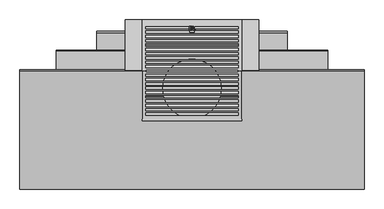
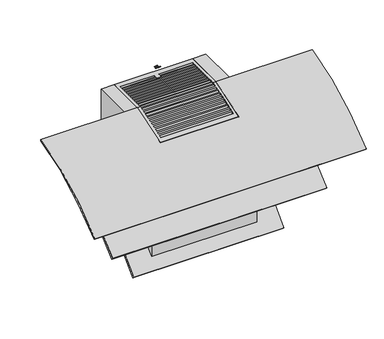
"""IFC4 building model written with IfcOpenShell, lengths in millimetres: proxy geometry, 10837590_RU_DA7198W_GRGR : 28719860_RU_10837590_DA7198W_GRGR."""

from ifc_helpers import new_model, si_unit, point, frame, frame_2d, origin, place, context, project, spatial, polyline, circle_curve, trimmed, segment, composite_curve, outline, extrude, source, transform, mapped, element, save
from ifc_brep_helpers import plane_surface, cylinder_surface, revolved_surface, advanced_brep


def specialty_equipment_96c89e36(model_context):
    return source(origin(), model_context, "Body", "SolidModel", [
        advanced_brep(
        [(-127.0, -197.4958505, 266.0), (-127.0, -215.0046577, 266.0), (127.0, -215.0046577, 266.0), (127.0, -197.4958505, 266.0), (-127.0, -78.0017041, 314.0044394), (-127.0, -81.2372253, 322.4332601), (127.0, -81.2372253, 322.4332601), (127.0, -78.0017041, 314.0044394), (346.5, -81.2372253, 322.4332601), (346.5, -372.0, 145.0), (346.5, -367.0, 140.0), (346.5, -78.0017041, 314.0044394), (-346.5, -81.2372253, 322.4332601), (-346.5, -78.0017041, 314.0044394), (-346.5, -367.0, 140.0), (-346.5, -372.0, 145.0)],
        [
            (0, 1),
            (1, 2),
            (2, 3),
            (3, 0),
            (0, 4, circle_curve(frame((-127.0, 108.2324676, -322.3019595), z_axis=(-1.0, 0.0, 0.0), x_axis=(0.0, 1.0, 0.0)), 663.0)),
            (4, 5),
            (5, 1, circle_curve(frame((-127.0, 110.3847812, -318.5363231), z_axis=(1.0, 0.0, 0.0), x_axis=(0.0, 1.0, 0.0)), 669.0)),
            (2, 6, circle_curve(frame((127.0, 110.3847812, -318.5363231), z_axis=(-1.0, 0.0, 0.0), x_axis=(0.0, 1.0, 0.0)), 669.0)),
            (6, 7),
            (7, 3, circle_curve(frame((127.0, 108.2324676, -322.3019595), z_axis=(1.0, 0.0, 0.0), x_axis=(0.0, 1.0, 0.0)), 663.0)),
            (8, 9, circle_curve(frame((346.5, 110.3847812, -318.5363231), z_axis=(1.0, 0.0, 0.0), x_axis=(0.0, 1.0, 0.0)), 669.0)),
            (9, 10),
            (10, 11, circle_curve(frame((346.5, 108.2324676, -322.3019595), z_axis=(-1.0, 0.0, 0.0), x_axis=(0.0, 1.0, 0.0)), 663.0)),
            (11, 8),
            (12, 13),
            (13, 14, circle_curve(frame((-346.5, 108.2324676, -322.3019595), z_axis=(1.0, 0.0, 0.0), x_axis=(0.0, 1.0, 0.0)), 663.0)),
            (14, 15),
            (15, 12, circle_curve(frame((-346.5, 110.3847812, -318.5363231), z_axis=(-1.0, 0.0, 0.0), x_axis=(0.0, 1.0, 0.0)), 669.0)),
            (8, 6),
            (5, 12),
            (15, 9),
            (14, 10),
            (13, 4),
            (7, 11),
        ],
        [
            plane_surface(frame((-127.0, -64.0, 266.0), z_axis=(0.0, 0.0, 1.0), x_axis=(1.0, 0.0, 0.0))),
            plane_surface(frame((-127.0, -64.0, 516.0), z_axis=(1.0, 0.0, 0.0), x_axis=(0.0, 0.0, -1.0))),
            plane_surface(frame((127.0, -254.0, 516.0), z_axis=(-1.0, 0.0, 0.0), x_axis=(0.0, 0.0, -1.0))),
            plane_surface(frame((346.5, 779.3847812, -318.5363231), z_axis=(1.0, 0.0, 0.0), x_axis=(0.0, 0.0, 1.0))),
            plane_surface(frame((-346.5, 779.3847812, -318.5363231), z_axis=(-1.0, 0.0, 0.0), x_axis=(0.0, 0.0, -1.0))),
            cylinder_surface(frame((-346.5, 110.3847812, -318.5363231), z_axis=(1.0, 0.0, 0.0), x_axis=(0.0, 1.0, 0.0)), 669.0),
            plane_surface(frame((346.5, -372.0, 145.0), z_axis=(0.0, -0.7071067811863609, -0.7071067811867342), x_axis=(-1.0, 0.0, 0.0))),
            revolved_surface(polyline([(-346.5, 771.2324676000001, -322.3019595), (346.5, 771.2324676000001, -322.3019595)]), (-346.5, 108.2324676, -322.3019595), (-1.0, 0.0, 0.0)),
            plane_surface(frame((346.5, -78.0017041, 314.0044394), z_axis=(0.0, 0.9335804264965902, 0.3583679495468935), x_axis=(-1.0, 0.0, 0.0))),
        ],
        [
            (0, [[1, 2, 3, 4]]),
            (1, [[-1, 5, 6, 7]]),
            (2, [[-3, 8, 9, 10]]),
            (3, [[11, 12, 13, 14]]),
            (4, [[15, 16, 17, 18]]),
            (5, [[-11, 19, -8, -2, -7, 20, -18, 21]]),
            (6, [[-12, -21, -17, 22]]),
            (7, [[-13, -22, -16, 23, -5, -4, -10, 24]]),
            (8, [[-14, -24, -9, -19]]),
            (8, [[-15, -20, -6, -23]]),
        ],
    ),
        extrude(outline(composite_curve([segment(polyline([(-33.2266316, 205.4056627), (-30.0, 197.0)]), True, "CONTINUOUS"), segment(trimmed(circle_curve(frame_2d((201.9393039, -424.1063993)), 663.0), [point((-30.0, 197.0))], [point((-305.6073214, 2.4676543))], True, "CARTESIAN"), True, "CONTINUOUS"), segment(polyline([(-305.6073214, 2.4676543), (-311.0, 7.0)]), True, "CONTINUOUS"), segment(trimmed(circle_curve(frame_2d((203.8626365, -420.1738119)), 669.0), [point((-311.0, 7.0))], [point((-33.2266316, 205.4056627))], False, "CARTESIAN"), True, "CONTINUOUS")], self_intersect=False)), frame((-243.5, 0.0, 0.0), z_axis=(1.0, 0.0, 0.0), x_axis=(0.0, 1.0, 0.0)), (0.0, 0.0, 1.0), 487.0),
        advanced_brep(
        [(440.0, -130.0, 440.0), (440.0, -433.0, 283.0), (440.0, -428.7072297, 278.2656206), (440.0, -128.6147909, 434.0), (-440.0, -130.0, 440.0), (-440.0, -128.6147909, 434.0), (-440.0, -428.7072297, 278.2656206), (-440.0, -433.0, 283.0), (127.0, -128.6147909, 434.0), (127.0, -130.0, 440.0), (-127.0, -130.0, 440.0), (-127.0, -128.6147909, 434.0), (-127.0, -258.0, 390.5496169), (127.0, -258.0, 390.5496169), (127.0, -258.0, 397.4182308), (-127.0, -258.0, 397.4182308)],
        [
            (0, 1, circle_curve(frame((440.0, 16.1013922, -212.8517314), z_axis=(1.0, 0.0, 0.0), x_axis=(0.0, 0.0, -1.0)), 669.0)),
            (1, 2),
            (2, 3, circle_curve(frame((440.0, 16.6376719, -212.8931303), z_axis=(-1.0, 0.0, 0.0), x_axis=(0.0, 0.0, -1.0)), 663.0)),
            (3, 0),
            (4, 5),
            (5, 6, circle_curve(frame((-440.0, 16.6376719, -212.8931303), z_axis=(1.0, 0.0, 0.0), x_axis=(0.0, 0.0, -1.0)), 663.0)),
            (6, 7),
            (7, 4, circle_curve(frame((-440.0, 16.1013922, -212.8517314), z_axis=(-1.0, 0.0, 0.0), x_axis=(0.0, 0.0, -1.0)), 669.0)),
            (3, 8),
            (8, 9),
            (9, 0),
            (4, 10),
            (10, 11),
            (11, 5),
            (2, 6),
            (11, 12, circle_curve(frame((-127.0, 16.6376719, -212.8931303), z_axis=(1.0, 0.0, 0.0), x_axis=(0.0, 0.0, -1.0)), 663.0)),
            (12, 13),
            (13, 8, circle_curve(frame((127.0, 16.6376719, -212.8931303), z_axis=(-1.0, 0.0, 0.0), x_axis=(0.0, 0.0, -1.0)), 663.0)),
            (1, 7),
            (9, 14, circle_curve(frame((127.0, 16.1013922, -212.8517314), z_axis=(1.0, 0.0, 0.0), x_axis=(0.0, 0.0, -1.0)), 669.0)),
            (14, 15),
            (15, 10, circle_curve(frame((-127.0, 16.1013922, -212.8517314), z_axis=(-1.0, 0.0, 0.0), x_axis=(0.0, 0.0, -1.0)), 669.0)),
            (15, 12),
            (14, 13),
        ],
        [
            plane_surface(frame((440.0, -128.6147909, 434.0), z_axis=(1.0, 0.0, 0.0), x_axis=(0.0, -0.22495105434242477, 0.9743700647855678))),
            plane_surface(frame((-440.0, -128.6147909, 434.0), z_axis=(-1.0, 0.0, 0.0), x_axis=(0.0, 0.22495105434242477, -0.9743700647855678))),
            plane_surface(frame((-440.0, -130.0, 440.0), z_axis=(0.0, 0.9743700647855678, 0.22495105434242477), x_axis=(1.0, 0.0, 0.0))),
            revolved_surface(polyline([(440.0, 16.6376719, -875.8931302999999), (-440.0, 16.6376719, -875.8931302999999)]), (440.0, 16.6376719, -212.8931303), (1.0, 0.0, 0.0)),
            plane_surface(frame((-440.0, -428.7072297, 278.2656206), z_axis=(0.0, -0.7408125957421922, -0.6717117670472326), x_axis=(1.0, 0.0, 0.0))),
            cylinder_surface(frame((440.0, 16.1013922, -212.8517314), z_axis=(-1.0, 0.0, 0.0), x_axis=(0.0, 0.0, -1.0)), 669.0),
            plane_surface(frame((-127.0, -118.0, 440.0), z_axis=(1.0, 0.0, 0.0), x_axis=(0.0, 0.0, -1.0))),
            plane_surface(frame((-127.0, -258.0, 440.0), z_axis=(0.0, 1.0, 0.0), x_axis=(0.0, 0.0, -1.0))),
            plane_surface(frame((127.0, -258.0, 440.0), z_axis=(-1.0, 0.0, 0.0), x_axis=(0.0, 0.0, -1.0))),
        ],
        [
            (0, [[1, 2, 3, 4]]),
            (1, [[5, 6, 7, 8]]),
            (2, [[-4, 9, 10, 11]]),
            (2, [[-5, 12, 13, 14]]),
            (3, [[-3, 15, -6, -14, 16, 17, 18, -9]]),
            (4, [[-2, 19, -7, -15]]),
            (5, [[-1, -11, 20, 21, 22, -12, -8, -19]]),
            (6, [[23, -16, -13, -22]]),
            (7, [[-23, -21, 24, -17]]),
            (8, [[-24, -20, -10, -18]]),
        ],
    ),
        extrude(outline(composite_curve([segment(trimmed(circle_curve(frame_2d((0.0, -176.0)), 75.0), [point((-75.0, -176.0))], [point((75.0, -176.0))], False, "CARTESIAN"), True, "CONTINUOUS"), segment(trimmed(circle_curve(frame_2d((0.0, -176.0)), 75.0), [point((75.0, -176.0))], [point((-75.0, -176.0))], False, "CARTESIAN"), True, "CONTINUOUS")], self_intersect=False)), frame((0.0, 0.0, 266.0), z_axis=(0.0, 0.0, 1.0), x_axis=(1.0, 0.0, 0.0)), (0.0, 0.0, 1.0), 30.0),
        extrude(outline(polyline([(158.0, -211.0), (158.0, -273.0), (-158.0, -273.0), (-158.0, -211.0), (158.0, -211.0)])), frame((0.0, 0.0, 2.0), z_axis=(0.0, 0.0, 1.0), x_axis=(1.0, 0.0, 0.0)), (0.0, 0.0, 1.0), 11.0),
        advanced_brep(
        [(127.0, -258.0, 397.0), (127.0, -253.4329355, 386.9929064), (127.0, -127.5254792, 429.281673), (127.0, 0.0, 429.281673), (127.0, 0.0, 440.0), (127.0, -130.0, 440.0), (-127.0, -258.0, 397.0), (-127.0, -130.0, 440.0), (-127.0, 0.0, 440.0), (-127.0, 0.0, 429.281673), (-127.0, -127.5254792, 429.281673), (-127.0, -253.4329355, 386.9929064), (-117.5, -128.0, 429.1754123), (-117.5, -134.0, 427.7990304), (117.5, -134.0, 427.7990304), (117.5, -128.0, 429.1754123), (-117.5, -139.0, 426.6054285), (-117.5, -145.0, 425.1167994), (117.5, -145.0, 425.1167994), (117.5, -139.0, 426.6054285), (-117.5, -161.0, 420.8434866), (-117.5, -167.0, 419.1257431), (117.5, -167.0, 419.1257431), (117.5, -161.0, 420.8434866), (117.5, -156.0, 422.226683), (117.5, -150.0, 423.8290514), (-117.5, -150.0, 423.8290514), (-117.5, -156.0, 422.226683), (-117.5, -183.0, 414.2322629), (-117.5, -189.0, 412.2782402), (117.5, -189.0, 412.2782402), (117.5, -183.0, 414.2322629), (117.5, -178.0, 415.8107651), (117.5, -172.0, 417.6456724), (-117.5, -172.0, 417.6456724), (-117.5, -178.0, 415.8107651), (-117.5, -205.0, 406.7437343), (-117.5, -211.0, 404.5449139), (117.5, -211.0, 404.5449139), (117.5, -205.0, 406.7437343), (117.5, -200.0, 408.5243441), (117.5, -194.0, 410.5996086), (-117.5, -194.0, 410.5996086), (-117.5, -200.0, 408.5243441), (-117.5, -216.0, 402.6603148), (-117.5, -222.0, 400.3354219), (117.5, -222.0, 400.3354219), (117.5, -216.0, 402.6603148), (-117.5, -238.0, 393.7916179), (-117.5, -244.0, 391.2061342), (117.5, -244.0, 391.2061342), (117.5, -238.0, 393.7916179), (117.5, -233.0, 395.8909456), (117.5, -227.0, 398.3446469), (-117.5, -227.0, 398.3446469), (-117.5, -233.0, 395.8909456), (-7.5, -18.0, 429.281673), (-117.5, -18.0, 429.281673), (-117.5, -24.0, 429.281673), (-7.5, -24.0, 429.281673), (7.5, -24.0, 429.281673), (117.5, -24.0, 429.281673), (117.5, -18.0, 429.281673), (7.5, -18.0, 429.281673), (-117.5, -29.0, 429.281673), (-117.5, -35.0, 429.281673), (-15.0, -35.0, 429.281673), (15.0, -35.0, 429.281673), (117.5, -35.0, 429.281673), (117.5, -29.0, 429.281673), (7.5, -29.0, 429.281673), (7.5, -33.0, 429.281673), (-7.5, -33.0, 429.281673), (-7.5, -29.0, 429.281673), (-117.5, -40.0, 429.281673), (-117.5, -46.0, 429.281673), (117.5, -46.0, 429.281673), (117.5, -40.0, 429.281673), (-117.5, -51.0, 429.281673), (-117.5, -57.0, 429.281673), (117.5, -57.0, 429.281673), (117.5, -51.0, 429.281673), (-117.5, -62.0, 429.281673), (-117.5, -68.0, 429.281673), (117.5, -68.0, 429.281673), (117.5, -62.0, 429.281673), (-117.5, -73.0, 429.281673), (-117.5, -79.0, 429.281673), (117.5, -79.0, 429.281673), (117.5, -73.0, 429.281673), (-117.5, -84.0, 429.281673), (-117.5, -90.0, 429.281673), (117.5, -90.0, 429.281673), (117.5, -84.0, 429.281673), (-117.5, -95.0, 429.281673), (-117.5, -101.0, 429.281673), (117.5, -101.0, 429.281673), (117.5, -95.0, 429.281673), (-117.5, -106.0, 429.281673), (-117.5, -112.0, 429.281673), (117.5, -112.0, 429.281673), (117.5, -106.0, 429.281673), (-117.5, -117.0, 429.281673), (-117.5, -123.0, 429.281673), (117.5, -123.0, 429.281673), (117.5, -117.0, 429.281673), (-117.5, -130.0, 440.0), (-117.5, -128.0, 440.0), (117.5, -128.0, 440.0), (117.5, -130.0, 440.0), (-117.5, -18.0, 440.0), (-7.5, -18.0, 440.0), (-7.5, -24.0, 440.0), (-117.5, -24.0, 440.0), (117.5, -24.0, 440.0), (7.5, -24.0, 440.0), (7.5, -18.0, 440.0), (117.5, -18.0, 440.0), (-117.5, -35.0, 440.0), (-117.5, -29.0, 440.0), (-7.5, -29.0, 440.0), (-7.5, -33.0, 440.0), (7.5, -33.0, 440.0), (7.5, -29.0, 440.0), (117.5, -29.0, 440.0), (117.5, -35.0, 440.0), (15.0, -35.0, 440.0), (-15.0, -35.0, 440.0), (-117.5, -46.0, 440.0), (-117.5, -40.0, 440.0), (117.5, -40.0, 440.0), (117.5, -46.0, 440.0), (-117.5, -57.0, 440.0), (-117.5, -51.0, 440.0), (117.5, -51.0, 440.0), (117.5, -57.0, 440.0), (-117.5, -68.0, 440.0), (-117.5, -62.0, 440.0), (117.5, -62.0, 440.0), (117.5, -68.0, 440.0), (-117.5, -79.0, 440.0), (-117.5, -73.0, 440.0), (117.5, -73.0, 440.0), (117.5, -79.0, 440.0), (-117.5, -90.0, 440.0), (-117.5, -84.0, 440.0), (117.5, -84.0, 440.0), (117.5, -90.0, 440.0), (-117.5, -101.0, 440.0), (-117.5, -95.0, 440.0), (117.5, -95.0, 440.0), (117.5, -101.0, 440.0), (-117.5, -112.0, 440.0), (-117.5, -106.0, 440.0), (117.5, -106.0, 440.0), (117.5, -112.0, 440.0), (-117.5, -123.0, 440.0), (-117.5, -117.0, 440.0), (117.5, -117.0, 440.0), (117.5, -123.0, 440.0), (117.5, -134.0, 439.0921103), (-117.5, -134.0, 439.0921103), (-117.5, -145.0, 436.4579016), (-117.5, -139.0, 437.9198286), (117.5, -139.0, 437.9198286), (117.5, -145.0, 436.4579016), (-117.5, -167.0, 430.5755837), (-117.5, -161.0, 432.2619393), (117.5, -161.0, 432.2619393), (117.5, -167.0, 430.5755837), (117.5, -150.0, 435.1933534), (117.5, -156.0, 433.6199845), (-117.5, -156.0, 433.6199845), (-117.5, -150.0, 435.1933534), (-117.5, -189.0, 423.8549218), (-117.5, -183.0, 425.7724658), (117.5, -183.0, 425.7724658), (117.5, -189.0, 423.8549218), (117.5, -172.0, 429.1226956), (117.5, -178.0, 427.3216657), (-117.5, -178.0, 427.3216657), (-117.5, -172.0, 429.1226956), (-117.5, -211.0, 416.268234), (-117.5, -205.0, 418.4249876), (117.5, -205.0, 418.4249876), (117.5, -211.0, 416.268234), (117.5, -194.0, 422.2078105), (117.5, -200.0, 420.1717501), (-117.5, -200.0, 420.1717501), (-117.5, -194.0, 422.2078105), (-117.5, -222.0, 412.1401189), (-117.5, -216.0, 414.4199298), (117.5, -216.0, 414.4199298), (117.5, -222.0, 412.1401189), (-117.5, -244.0, 403.1912183), (-117.5, -238.0, 405.7250633), (117.5, -238.0, 405.7250633), (117.5, -244.0, 403.1912183), (117.5, -227.0, 410.1882201), (117.5, -233.0, 407.7827852), (-117.5, -233.0, 407.7827852), (-117.5, -227.0, 410.1882201)],
        [
            (0, 1),
            (1, 2, circle_curve(frame((127.0, 11.8719926, -194.3282571), z_axis=(-1.0, 0.0, 0.0), x_axis=(0.0, 0.0, 1.0)), 639.0)),
            (2, 3),
            (3, 4),
            (4, 5),
            (5, 0, circle_curve(frame((127.0, 11.8719926, -194.3282571), z_axis=(1.0, 0.0, 0.0), x_axis=(0.0, 0.0, 1.0)), 650.0)),
            (6, 7, circle_curve(frame((-127.0, 11.8719926, -194.3282571), z_axis=(-1.0, 0.0, 0.0), x_axis=(0.0, 0.0, 1.0)), 650.0)),
            (7, 8),
            (8, 9),
            (9, 10),
            (10, 11, circle_curve(frame((-127.0, 11.8719926, -194.3282571), z_axis=(1.0, 0.0, 0.0), x_axis=(0.0, 0.0, 1.0)), 639.0)),
            (11, 6),
            (0, 6),
            (11, 1),
            (10, 2),
            (12, 13, circle_curve(frame((-117.5, 11.8719926, -194.3282571), z_axis=(1.0, 0.0, 0.0), x_axis=(0.0, 0.0, 1.0)), 639.0)),
            (13, 14),
            (14, 15, circle_curve(frame((117.5, 11.8719926, -194.3282571), z_axis=(-1.0, 0.0, 0.0), x_axis=(0.0, 0.0, 1.0)), 639.0)),
            (15, 12),
            (16, 17, circle_curve(frame((-117.5, 11.8719926, -194.3282571), z_axis=(1.0, 0.0, 0.0), x_axis=(0.0, 0.0, 1.0)), 639.0)),
            (17, 18),
            (18, 19, circle_curve(frame((117.5, 11.8719926, -194.3282571), z_axis=(-1.0, 0.0, 0.0), x_axis=(0.0, 0.0, 1.0)), 639.0)),
            (19, 16),
            (20, 21, circle_curve(frame((-117.5, 11.8719926, -194.3282571), z_axis=(1.0, 0.0, 0.0), x_axis=(0.0, 0.0, 1.0)), 639.0)),
            (21, 22),
            (22, 23, circle_curve(frame((117.5, 11.8719926, -194.3282571), z_axis=(-1.0, 0.0, 0.0), x_axis=(0.0, 0.0, 1.0)), 639.0)),
            (23, 20),
            (24, 25, circle_curve(frame((117.5, 11.8719926, -194.3282571), z_axis=(-1.0, 0.0, 0.0), x_axis=(0.0, 0.0, 1.0)), 639.0)),
            (25, 26),
            (26, 27, circle_curve(frame((-117.5, 11.8719926, -194.3282571), z_axis=(1.0, 0.0, 0.0), x_axis=(0.0, 0.0, 1.0)), 639.0)),
            (27, 24),
            (28, 29, circle_curve(frame((-117.5, 11.8719926, -194.3282571), z_axis=(1.0, 0.0, 0.0), x_axis=(0.0, 0.0, 1.0)), 639.0)),
            (29, 30),
            (30, 31, circle_curve(frame((117.5, 11.8719926, -194.3282571), z_axis=(-1.0, 0.0, 0.0), x_axis=(0.0, 0.0, 1.0)), 639.0)),
            (31, 28),
            (32, 33, circle_curve(frame((117.5, 11.8719926, -194.3282571), z_axis=(-1.0, 0.0, 0.0), x_axis=(0.0, 0.0, 1.0)), 639.0)),
            (33, 34),
            (34, 35, circle_curve(frame((-117.5, 11.8719926, -194.3282571), z_axis=(1.0, 0.0, 0.0), x_axis=(0.0, 0.0, 1.0)), 639.0)),
            (35, 32),
            (36, 37, circle_curve(frame((-117.5, 11.8719926, -194.3282571), z_axis=(1.0, 0.0, 0.0), x_axis=(0.0, 0.0, 1.0)), 639.0)),
            (37, 38),
            (38, 39, circle_curve(frame((117.5, 11.8719926, -194.3282571), z_axis=(-1.0, 0.0, 0.0), x_axis=(0.0, 0.0, 1.0)), 639.0)),
            (39, 36),
            (40, 41, circle_curve(frame((117.5, 11.8719926, -194.3282571), z_axis=(-1.0, 0.0, 0.0), x_axis=(0.0, 0.0, 1.0)), 639.0)),
            (41, 42),
            (42, 43, circle_curve(frame((-117.5, 11.8719926, -194.3282571), z_axis=(1.0, 0.0, 0.0), x_axis=(0.0, 0.0, 1.0)), 639.0)),
            (43, 40),
            (44, 45, circle_curve(frame((-117.5, 11.8719926, -194.3282571), z_axis=(1.0, 0.0, 0.0), x_axis=(0.0, 0.0, 1.0)), 639.0)),
            (45, 46),
            (46, 47, circle_curve(frame((117.5, 11.8719926, -194.3282571), z_axis=(-1.0, 0.0, 0.0), x_axis=(0.0, 0.0, 1.0)), 639.0)),
            (47, 44),
            (48, 49, circle_curve(frame((-117.5, 11.8719926, -194.3282571), z_axis=(1.0, 0.0, 0.0), x_axis=(0.0, 0.0, 1.0)), 639.0)),
            (49, 50),
            (50, 51, circle_curve(frame((117.5, 11.8719926, -194.3282571), z_axis=(-1.0, 0.0, 0.0), x_axis=(0.0, 0.0, 1.0)), 639.0)),
            (51, 48),
            (52, 53, circle_curve(frame((117.5, 11.8719926, -194.3282571), z_axis=(-1.0, 0.0, 0.0), x_axis=(0.0, 0.0, 1.0)), 639.0)),
            (53, 54),
            (54, 55, circle_curve(frame((-117.5, 11.8719926, -194.3282571), z_axis=(1.0, 0.0, 0.0), x_axis=(0.0, 0.0, 1.0)), 639.0)),
            (55, 52),
            (9, 3),
            (56, 57),
            (57, 58),
            (58, 59),
            (59, 56),
            (60, 61),
            (61, 62),
            (62, 63),
            (63, 60),
            (64, 65),
            (65, 66),
            (66, 67),
            (67, 68),
            (68, 69),
            (69, 70),
            (70, 71),
            (71, 72),
            (72, 73),
            (73, 64),
            (74, 75),
            (75, 76),
            (76, 77),
            (77, 74),
            (78, 79),
            (79, 80),
            (80, 81),
            (81, 78),
            (82, 83),
            (83, 84),
            (84, 85),
            (85, 82),
            (86, 87),
            (87, 88),
            (88, 89),
            (89, 86),
            (90, 91),
            (91, 92),
            (92, 93),
            (93, 90),
            (94, 95),
            (95, 96),
            (96, 97),
            (97, 94),
            (98, 99),
            (99, 100),
            (100, 101),
            (101, 98),
            (102, 103),
            (103, 104),
            (104, 105),
            (105, 102),
            (8, 4),
            (7, 106),
            (106, 107),
            (107, 108),
            (108, 109),
            (109, 5),
            (110, 111),
            (111, 112),
            (112, 113),
            (113, 110),
            (114, 115),
            (115, 116),
            (116, 117),
            (117, 114),
            (118, 119),
            (119, 120),
            (120, 121),
            (121, 122),
            (122, 123),
            (123, 124),
            (124, 125),
            (125, 126),
            (126, 127),
            (127, 118),
            (128, 129),
            (129, 130),
            (130, 131),
            (131, 128),
            (132, 133),
            (133, 134),
            (134, 135),
            (135, 132),
            (136, 137),
            (137, 138),
            (138, 139),
            (139, 136),
            (140, 141),
            (141, 142),
            (142, 143),
            (143, 140),
            (144, 145),
            (145, 146),
            (146, 147),
            (147, 144),
            (148, 149),
            (149, 150),
            (150, 151),
            (151, 148),
            (152, 153),
            (153, 154),
            (154, 155),
            (155, 152),
            (156, 157),
            (157, 158),
            (158, 159),
            (159, 156),
            (109, 160, circle_curve(frame((117.5, 11.8719926, -194.3282571), z_axis=(1.0, 0.0, 0.0), x_axis=(0.0, 0.0, 1.0)), 650.0)),
            (160, 161),
            (161, 106, circle_curve(frame((-117.5, 11.8719926, -194.3282571), z_axis=(-1.0, 0.0, 0.0), x_axis=(0.0, 0.0, 1.0)), 650.0)),
            (162, 163, circle_curve(frame((-117.5, 11.8719926, -194.3282571), z_axis=(-1.0, 0.0, 0.0), x_axis=(0.0, 0.0, 1.0)), 650.0)),
            (163, 164),
            (164, 165, circle_curve(frame((117.5, 11.8719926, -194.3282571), z_axis=(1.0, 0.0, 0.0), x_axis=(0.0, 0.0, 1.0)), 650.0)),
            (165, 162),
            (166, 167, circle_curve(frame((-117.5, 11.8719926, -194.3282571), z_axis=(-1.0, 0.0, 0.0), x_axis=(0.0, 0.0, 1.0)), 650.0)),
            (167, 168),
            (168, 169, circle_curve(frame((117.5, 11.8719926, -194.3282571), z_axis=(1.0, 0.0, 0.0), x_axis=(0.0, 0.0, 1.0)), 650.0)),
            (169, 166),
            (170, 171, circle_curve(frame((117.5, 11.8719926, -194.3282571), z_axis=(1.0, 0.0, 0.0), x_axis=(0.0, 0.0, 1.0)), 650.0)),
            (171, 172),
            (172, 173, circle_curve(frame((-117.5, 11.8719926, -194.3282571), z_axis=(-1.0, 0.0, 0.0), x_axis=(0.0, 0.0, 1.0)), 650.0)),
            (173, 170),
            (174, 175, circle_curve(frame((-117.5, 11.8719926, -194.3282571), z_axis=(-1.0, 0.0, 0.0), x_axis=(0.0, 0.0, 1.0)), 650.0)),
            (175, 176),
            (176, 177, circle_curve(frame((117.5, 11.8719926, -194.3282571), z_axis=(1.0, 0.0, 0.0), x_axis=(0.0, 0.0, 1.0)), 650.0)),
            (177, 174),
            (178, 179, circle_curve(frame((117.5, 11.8719926, -194.3282571), z_axis=(1.0, 0.0, 0.0), x_axis=(0.0, 0.0, 1.0)), 650.0)),
            (179, 180),
            (180, 181, circle_curve(frame((-117.5, 11.8719926, -194.3282571), z_axis=(-1.0, 0.0, 0.0), x_axis=(0.0, 0.0, 1.0)), 650.0)),
            (181, 178),
            (182, 183, circle_curve(frame((-117.5, 11.8719926, -194.3282571), z_axis=(-1.0, 0.0, 0.0), x_axis=(0.0, 0.0, 1.0)), 650.0)),
            (183, 184),
            (184, 185, circle_curve(frame((117.5, 11.8719926, -194.3282571), z_axis=(1.0, 0.0, 0.0), x_axis=(0.0, 0.0, 1.0)), 650.0)),
            (185, 182),
            (186, 187, circle_curve(frame((117.5, 11.8719926, -194.3282571), z_axis=(1.0, 0.0, 0.0), x_axis=(0.0, 0.0, 1.0)), 650.0)),
            (187, 188),
            (188, 189, circle_curve(frame((-117.5, 11.8719926, -194.3282571), z_axis=(-1.0, 0.0, 0.0), x_axis=(0.0, 0.0, 1.0)), 650.0)),
            (189, 186),
            (190, 191, circle_curve(frame((-117.5, 11.8719926, -194.3282571), z_axis=(-1.0, 0.0, 0.0), x_axis=(0.0, 0.0, 1.0)), 650.0)),
            (191, 192),
            (192, 193, circle_curve(frame((117.5, 11.8719926, -194.3282571), z_axis=(1.0, 0.0, 0.0), x_axis=(0.0, 0.0, 1.0)), 650.0)),
            (193, 190),
            (194, 195, circle_curve(frame((-117.5, 11.8719926, -194.3282571), z_axis=(-1.0, 0.0, 0.0), x_axis=(0.0, 0.0, 1.0)), 650.0)),
            (195, 196),
            (196, 197, circle_curve(frame((117.5, 11.8719926, -194.3282571), z_axis=(1.0, 0.0, 0.0), x_axis=(0.0, 0.0, 1.0)), 650.0)),
            (197, 194),
            (198, 199, circle_curve(frame((117.5, 11.8719926, -194.3282571), z_axis=(1.0, 0.0, 0.0), x_axis=(0.0, 0.0, 1.0)), 650.0)),
            (199, 200),
            (200, 201, circle_curve(frame((-117.5, 11.8719926, -194.3282571), z_axis=(-1.0, 0.0, 0.0), x_axis=(0.0, 0.0, 1.0)), 650.0)),
            (201, 198),
            (56, 111),
            (110, 57),
            (113, 58),
            (60, 115),
            (114, 61),
            (117, 62),
            (64, 119),
            (118, 65),
            (67, 126),
            (125, 68),
            (124, 69),
            (123, 70),
            (74, 129),
            (128, 75),
            (131, 76),
            (130, 77),
            (78, 133),
            (132, 79),
            (135, 80),
            (134, 81),
            (82, 137),
            (136, 83),
            (139, 84),
            (138, 85),
            (86, 141),
            (140, 87),
            (143, 88),
            (142, 89),
            (90, 145),
            (144, 91),
            (147, 92),
            (146, 93),
            (94, 149),
            (148, 95),
            (151, 96),
            (150, 97),
            (98, 153),
            (152, 99),
            (155, 100),
            (154, 101),
            (102, 157),
            (156, 103),
            (159, 104),
            (158, 105),
            (12, 107),
            (161, 13),
            (160, 14),
            (108, 15),
            (16, 163),
            (162, 17),
            (165, 18),
            (164, 19),
            (112, 59),
            (116, 63),
            (71, 122),
            (121, 72),
            (73, 120),
            (127, 66),
            (20, 167),
            (166, 21),
            (169, 22),
            (168, 23),
            (24, 171),
            (170, 25),
            (173, 26),
            (172, 27),
            (28, 175),
            (174, 29),
            (177, 30),
            (176, 31),
            (32, 179),
            (178, 33),
            (181, 34),
            (180, 35),
            (36, 183),
            (182, 37),
            (185, 38),
            (184, 39),
            (40, 187),
            (186, 41),
            (189, 42),
            (188, 43),
            (44, 191),
            (190, 45),
            (193, 46),
            (192, 47),
            (48, 195),
            (194, 49),
            (197, 50),
            (196, 51),
            (52, 199),
            (198, 53),
            (201, 54),
            (200, 55),
        ],
        [
            plane_surface(frame((127.0, -253.4329355, 386.9929064), z_axis=(1.0, 0.0, 0.0), x_axis=(0.0, 0.4151876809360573, -0.9097357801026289))),
            plane_surface(frame((-127.0, -253.4329355, 386.9929064), z_axis=(-1.0, 0.0, 0.0), x_axis=(0.0, -0.4151876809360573, 0.9097357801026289))),
            plane_surface(frame((127.0, -258.0, 397.0), z_axis=(0.0, -0.9097357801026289, -0.4151876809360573), x_axis=(-1.0, 0.0, 0.0))),
            revolved_surface(polyline([(-127.0, 11.8719926, 444.6717429), (127.0, 11.8719926, 444.6717429)]), (-127.0, 11.8719926, -194.3282571), (-1.0, 0.0, 0.0)),
            plane_surface(frame((127.0, -127.5254792, 429.281673), z_axis=(0.0, 0.0, -1.0), x_axis=(-1.0, 0.0, 0.0))),
            plane_surface(frame((127.0, 0.0, 429.281673), z_axis=(0.0, 1.0, 0.0), x_axis=(-1.0, 0.0, 0.0))),
            plane_surface(frame((127.0, 0.0, 440.0), z_axis=(0.0, 0.0, 1.0), x_axis=(-1.0, 0.0, 0.0))),
            cylinder_surface(frame((-127.0, 11.8719926, -194.3282571), z_axis=(1.0, 0.0, 0.0), x_axis=(0.0, 0.0, 1.0)), 650.0),
            plane_surface(frame((-7.5, -18.0, 440.0), z_axis=(0.0, -1.0, 0.0), x_axis=(0.0, 0.0, -1.0))),
            plane_surface(frame((-117.5, -18.0, 440.0), z_axis=(1.0, 0.0, 0.0), x_axis=(0.0, 0.0, -1.0))),
            plane_surface(frame((7.5, -24.0, 440.0), z_axis=(0.0, 1.0, 0.0), x_axis=(0.0, 0.0, -1.0))),
            plane_surface(frame((117.5, -24.0, 440.0), z_axis=(-1.0, 0.0, 0.0), x_axis=(0.0, 0.0, -1.0))),
            plane_surface(frame((-117.5, -29.0, 440.0), z_axis=(1.0, 0.0, 0.0), x_axis=(0.0, 0.0, -1.0))),
            plane_surface(frame((15.0, -35.0, 440.0), z_axis=(0.0, 1.0, 0.0), x_axis=(0.0, 0.0, -1.0))),
            plane_surface(frame((117.5, -35.0, 440.0), z_axis=(-1.0, 0.0, 0.0), x_axis=(0.0, 0.0, -1.0))),
            plane_surface(frame((117.5, -29.0, 440.0), z_axis=(0.0, -1.0, 0.0), x_axis=(0.0, 0.0, -1.0))),
            plane_surface(frame((-117.5, -40.0, 440.0), z_axis=(1.0, 0.0, 0.0), x_axis=(0.0, 0.0, -1.0))),
            plane_surface(frame((-117.5, -46.0, 440.0), z_axis=(0.0, 1.0, 0.0), x_axis=(0.0, 0.0, -1.0))),
            plane_surface(frame((117.5, -46.0, 440.0), z_axis=(-1.0, 0.0, 0.0), x_axis=(0.0, 0.0, -1.0))),
            plane_surface(frame((117.5, -40.0, 440.0), z_axis=(0.0, -1.0, 0.0), x_axis=(0.0, 0.0, -1.0))),
            plane_surface(frame((-117.5, -51.0, 440.0), z_axis=(1.0, 0.0, 0.0), x_axis=(0.0, 0.0, -1.0))),
            plane_surface(frame((-117.5, -57.0, 440.0), z_axis=(0.0, 1.0, 0.0), x_axis=(0.0, 0.0, -1.0))),
            plane_surface(frame((117.5, -57.0, 440.0), z_axis=(-1.0, 0.0, 0.0), x_axis=(0.0, 0.0, -1.0))),
            plane_surface(frame((117.5, -51.0, 440.0), z_axis=(0.0, -1.0, 0.0), x_axis=(0.0, 0.0, -1.0))),
            plane_surface(frame((-117.5, -62.0, 440.0), z_axis=(1.0, 0.0, 0.0), x_axis=(0.0, 0.0, -1.0))),
            plane_surface(frame((-117.5, -68.0, 440.0), z_axis=(0.0, 1.0, 0.0), x_axis=(0.0, 0.0, -1.0))),
            plane_surface(frame((117.5, -68.0, 440.0), z_axis=(-1.0, 0.0, 0.0), x_axis=(0.0, 0.0, -1.0))),
            plane_surface(frame((117.5, -62.0, 440.0), z_axis=(0.0, -1.0, 0.0), x_axis=(0.0, 0.0, -1.0))),
            plane_surface(frame((-117.5, -73.0, 440.0), z_axis=(1.0, 0.0, 0.0), x_axis=(0.0, 0.0, -1.0))),
            plane_surface(frame((-117.5, -79.0, 440.0), z_axis=(0.0, 1.0, 0.0), x_axis=(0.0, 0.0, -1.0))),
            plane_surface(frame((117.5, -79.0, 440.0), z_axis=(-1.0, 0.0, 0.0), x_axis=(0.0, 0.0, -1.0))),
            plane_surface(frame((117.5, -73.0, 440.0), z_axis=(0.0, -1.0, 0.0), x_axis=(0.0, 0.0, -1.0))),
            plane_surface(frame((-117.5, -84.0, 440.0), z_axis=(1.0, 0.0, 0.0), x_axis=(0.0, 0.0, -1.0))),
            plane_surface(frame((-117.5, -90.0, 440.0), z_axis=(0.0, 1.0, 0.0), x_axis=(0.0, 0.0, -1.0))),
            plane_surface(frame((117.5, -90.0, 440.0), z_axis=(-1.0, 0.0, 0.0), x_axis=(0.0, 0.0, -1.0))),
            plane_surface(frame((117.5, -84.0, 440.0), z_axis=(0.0, -1.0, 0.0), x_axis=(0.0, 0.0, -1.0))),
            plane_surface(frame((-117.5, -95.0, 440.0), z_axis=(1.0, 0.0, 0.0), x_axis=(0.0, 0.0, -1.0))),
            plane_surface(frame((-117.5, -101.0, 440.0), z_axis=(0.0, 1.0, 0.0), x_axis=(0.0, 0.0, -1.0))),
            plane_surface(frame((117.5, -101.0, 440.0), z_axis=(-1.0, 0.0, 0.0), x_axis=(0.0, 0.0, -1.0))),
            plane_surface(frame((117.5, -95.0, 440.0), z_axis=(0.0, -1.0, 0.0), x_axis=(0.0, 0.0, -1.0))),
            plane_surface(frame((-117.5, -106.0, 440.0), z_axis=(1.0, 0.0, 0.0), x_axis=(0.0, 0.0, -1.0))),
            plane_surface(frame((-117.5, -112.0, 440.0), z_axis=(0.0, 1.0, 0.0), x_axis=(0.0, 0.0, -1.0))),
            plane_surface(frame((117.5, -112.0, 440.0), z_axis=(-1.0, 0.0, 0.0), x_axis=(0.0, 0.0, -1.0))),
            plane_surface(frame((117.5, -106.0, 440.0), z_axis=(0.0, -1.0, 0.0), x_axis=(0.0, 0.0, -1.0))),
            plane_surface(frame((-117.5, -117.0, 440.0), z_axis=(1.0, 0.0, 0.0), x_axis=(0.0, 0.0, -1.0))),
            plane_surface(frame((-117.5, -123.0, 440.0), z_axis=(0.0, 1.0, 0.0), x_axis=(0.0, 0.0, -1.0))),
            plane_surface(frame((117.5, -123.0, 440.0), z_axis=(-1.0, 0.0, 0.0), x_axis=(0.0, 0.0, -1.0))),
            plane_surface(frame((117.5, -117.0, 440.0), z_axis=(0.0, -1.0, 0.0), x_axis=(0.0, 0.0, -1.0))),
            plane_surface(frame((-117.5, -128.0, 440.0), z_axis=(1.0, 0.0, 0.0), x_axis=(0.0, 0.0, -1.0))),
            plane_surface(frame((-117.5, -134.0, 440.0), z_axis=(0.0, 1.0, 0.0), x_axis=(0.0, 0.0, -1.0))),
            plane_surface(frame((117.5, -134.0, 440.0), z_axis=(-1.0, 0.0, 0.0), x_axis=(0.0, 0.0, -1.0))),
            plane_surface(frame((117.5, -128.0, 440.0), z_axis=(0.0, -1.0, 0.0), x_axis=(0.0, 0.0, -1.0))),
            plane_surface(frame((-117.5, -139.0, 440.0), z_axis=(1.0, 0.0, 0.0), x_axis=(0.0, 0.0, -1.0))),
            plane_surface(frame((-117.5, -145.0, 440.0), z_axis=(0.0, 1.0, 0.0), x_axis=(0.0, 0.0, -1.0))),
            plane_surface(frame((117.5, -145.0, 440.0), z_axis=(-1.0, 0.0, 0.0), x_axis=(0.0, 0.0, -1.0))),
            plane_surface(frame((117.5, -139.0, 440.0), z_axis=(0.0, -1.0, 0.0), x_axis=(0.0, 0.0, -1.0))),
            plane_surface(frame((-117.5, -24.0, 440.0), z_axis=(0.0, 1.0, 0.0), x_axis=(0.0, 0.0, -1.0))),
            plane_surface(frame((117.5, -18.0, 440.0), z_axis=(0.0, -1.0, 0.0), x_axis=(0.0, 0.0, -1.0))),
            plane_surface(frame((7.5, -33.0, 440.0), z_axis=(0.0, -1.0, 0.0), x_axis=(0.0, 0.0, -1.0))),
            plane_surface(frame((-7.5, -29.0, 440.0), z_axis=(0.0, -1.0, 0.0), x_axis=(0.0, 0.0, -1.0))),
            plane_surface(frame((-117.5, -35.0, 440.0), z_axis=(0.0, 1.0, 0.0), x_axis=(0.0, 0.0, -1.0))),
            plane_surface(frame((-15.0, -35.0, 440.0), z_axis=(0.0, 1.0, 0.0), x_axis=(0.0, 0.0, -1.0))),
            plane_surface(frame((-7.5, -24.0, 440.0), z_axis=(-1.0, 0.0, 0.0), x_axis=(0.0, 0.0, -1.0))),
            plane_surface(frame((7.5, -18.0, 440.0), z_axis=(1.0, 0.0, 0.0), x_axis=(0.0, 0.0, -1.0))),
            plane_surface(frame((7.5, -29.0, 440.0), z_axis=(1.0, 0.0, 0.0), x_axis=(0.0, 0.0, -1.0))),
            plane_surface(frame((-7.5, -33.0, 440.0), z_axis=(-1.0, 0.0, 0.0), x_axis=(0.0, 0.0, -1.0))),
            plane_surface(frame((-117.5, -161.0, 440.0), z_axis=(1.0, 0.0, 0.0), x_axis=(0.0, 0.0, -1.0))),
            plane_surface(frame((-117.5, -167.0, 440.0), z_axis=(0.0, 1.0, 0.0), x_axis=(0.0, 0.0, -1.0))),
            plane_surface(frame((117.5, -167.0, 440.0), z_axis=(-1.0, 0.0, 0.0), x_axis=(0.0, 0.0, -1.0))),
            plane_surface(frame((117.5, -161.0, 440.0), z_axis=(0.0, -1.0, 0.0), x_axis=(0.0, 0.0, -1.0))),
            plane_surface(frame((117.5, -156.0, 440.0), z_axis=(-1.0, 0.0, 0.0), x_axis=(0.0, 0.0, -1.0))),
            plane_surface(frame((117.5, -150.0, 440.0), z_axis=(0.0, -1.0, 0.0), x_axis=(0.0, 0.0, -1.0))),
            plane_surface(frame((-117.5, -150.0, 440.0), z_axis=(1.0, 0.0, 0.0), x_axis=(0.0, 0.0, -1.0))),
            plane_surface(frame((-117.5, -156.0, 440.0), z_axis=(0.0, 1.0, 0.0), x_axis=(0.0, 0.0, -1.0))),
            plane_surface(frame((-117.5, -183.0, 440.0), z_axis=(1.0, 0.0, 0.0), x_axis=(0.0, 0.0, -1.0))),
            plane_surface(frame((-117.5, -189.0, 440.0), z_axis=(0.0, 1.0, 0.0), x_axis=(0.0, 0.0, -1.0))),
            plane_surface(frame((117.5, -189.0, 440.0), z_axis=(-1.0, 0.0, 0.0), x_axis=(0.0, 0.0, -1.0))),
            plane_surface(frame((117.5, -183.0, 440.0), z_axis=(0.0, -1.0, 0.0), x_axis=(0.0, 0.0, -1.0))),
            plane_surface(frame((117.5, -178.0, 440.0), z_axis=(-1.0, 0.0, 0.0), x_axis=(0.0, 0.0, -1.0))),
            plane_surface(frame((117.5, -172.0, 440.0), z_axis=(0.0, -1.0, 0.0), x_axis=(0.0, 0.0, -1.0))),
            plane_surface(frame((-117.5, -172.0, 440.0), z_axis=(1.0, 0.0, 0.0), x_axis=(0.0, 0.0, -1.0))),
            plane_surface(frame((-117.5, -178.0, 440.0), z_axis=(0.0, 1.0, 0.0), x_axis=(0.0, 0.0, -1.0))),
            plane_surface(frame((-117.5, -205.0, 440.0), z_axis=(1.0, 0.0, 0.0), x_axis=(0.0, 0.0, -1.0))),
            plane_surface(frame((-117.5, -211.0, 440.0), z_axis=(0.0, 1.0, 0.0), x_axis=(0.0, 0.0, -1.0))),
            plane_surface(frame((117.5, -211.0, 440.0), z_axis=(-1.0, 0.0, 0.0), x_axis=(0.0, 0.0, -1.0))),
            plane_surface(frame((117.5, -205.0, 440.0), z_axis=(0.0, -1.0, 0.0), x_axis=(0.0, 0.0, -1.0))),
            plane_surface(frame((117.5, -200.0, 440.0), z_axis=(-1.0, 0.0, 0.0), x_axis=(0.0, 0.0, -1.0))),
            plane_surface(frame((117.5, -194.0, 440.0), z_axis=(0.0, -1.0, 0.0), x_axis=(0.0, 0.0, -1.0))),
            plane_surface(frame((-117.5, -194.0, 440.0), z_axis=(1.0, 0.0, 0.0), x_axis=(0.0, 0.0, -1.0))),
            plane_surface(frame((-117.5, -200.0, 440.0), z_axis=(0.0, 1.0, 0.0), x_axis=(0.0, 0.0, -1.0))),
            plane_surface(frame((-117.5, -216.0, 440.0), z_axis=(1.0, 0.0, 0.0), x_axis=(0.0, 0.0, -1.0))),
            plane_surface(frame((-117.5, -222.0, 440.0), z_axis=(0.0, 1.0, 0.0), x_axis=(0.0, 0.0, -1.0))),
            plane_surface(frame((117.5, -222.0, 440.0), z_axis=(-1.0, 0.0, 0.0), x_axis=(0.0, 0.0, -1.0))),
            plane_surface(frame((117.5, -216.0, 440.0), z_axis=(0.0, -1.0, 0.0), x_axis=(0.0, 0.0, -1.0))),
            plane_surface(frame((-117.5, -238.0, 440.0), z_axis=(1.0, 0.0, 0.0), x_axis=(0.0, 0.0, -1.0))),
            plane_surface(frame((-117.5, -244.0, 440.0), z_axis=(0.0, 1.0, 0.0), x_axis=(0.0, 0.0, -1.0))),
            plane_surface(frame((117.5, -244.0, 440.0), z_axis=(-1.0, 0.0, 0.0), x_axis=(0.0, 0.0, -1.0))),
            plane_surface(frame((117.5, -238.0, 440.0), z_axis=(0.0, -1.0, 0.0), x_axis=(0.0, 0.0, -1.0))),
            plane_surface(frame((117.5, -233.0, 440.0), z_axis=(-1.0, 0.0, 0.0), x_axis=(0.0, 0.0, -1.0))),
            plane_surface(frame((117.5, -227.0, 440.0), z_axis=(0.0, -1.0, 0.0), x_axis=(0.0, 0.0, -1.0))),
            plane_surface(frame((-117.5, -227.0, 440.0), z_axis=(1.0, 0.0, 0.0), x_axis=(0.0, 0.0, -1.0))),
            plane_surface(frame((-117.5, -233.0, 440.0), z_axis=(0.0, 1.0, 0.0), x_axis=(0.0, 0.0, -1.0))),
        ],
        [
            (0, [[1, 2, 3, 4, 5, 6]]),
            (1, [[7, 8, 9, 10, 11, 12]]),
            (2, [[-1, 13, -12, 14]]),
            (3, [[-2, -14, -11, 15], [16, 17, 18, 19], [20, 21, 22, 23], [24, 25, 26, 27], [28, 29, 30, 31], [32, 33, 34, 35], [36, 37, 38, 39], [40, 41, 42, 43], [44, 45, 46, 47], [48, 49, 50, 51], [52, 53, 54, 55], [56, 57, 58, 59]]),
            (4, [[-3, -15, -10, 60], [61, 62, 63, 64], [65, 66, 67, 68], [69, 70, 71, 72, 73, 74, 75, 76, 77, 78], [79, 80, 81, 82], [83, 84, 85, 86], [87, 88, 89, 90], [91, 92, 93, 94], [95, 96, 97, 98], [99, 100, 101, 102], [103, 104, 105, 106], [107, 108, 109, 110]]),
            (5, [[-4, -60, -9, 111]]),
            (6, [[-5, -111, -8, 112, 113, 114, 115, 116], [117, 118, 119, 120], [121, 122, 123, 124], [125, 126, 127, 128, 129, 130, 131, 132, 133, 134], [135, 136, 137, 138], [139, 140, 141, 142], [143, 144, 145, 146], [147, 148, 149, 150], [151, 152, 153, 154], [155, 156, 157, 158], [159, 160, 161, 162], [163, 164, 165, 166]]),
            (7, [[-6, -116, 167, 168, 169, -112, -7, -13], [170, 171, 172, 173], [174, 175, 176, 177], [178, 179, 180, 181], [182, 183, 184, 185], [186, 187, 188, 189], [190, 191, 192, 193], [194, 195, 196, 197], [198, 199, 200, 201], [202, 203, 204, 205], [206, 207, 208, 209]]),
            (8, [[210, -117, 211, -61]]),
            (9, [[-211, -120, 212, -62]]),
            (10, [[213, -121, 214, -65]]),
            (11, [[-214, -124, 215, -66]]),
            (12, [[216, -125, 217, -69]]),
            (13, [[218, -132, 219, -72]]),
            (14, [[-219, -131, 220, -73]]),
            (15, [[-220, -130, 221, -74]]),
            (16, [[222, -135, 223, -79]]),
            (17, [[-223, -138, 224, -80]]),
            (18, [[-224, -137, 225, -81]]),
            (19, [[-222, -82, -225, -136]]),
            (20, [[226, -139, 227, -83]]),
            (21, [[-227, -142, 228, -84]]),
            (22, [[-228, -141, 229, -85]]),
            (23, [[-226, -86, -229, -140]]),
            (24, [[230, -143, 231, -87]]),
            (25, [[-231, -146, 232, -88]]),
            (26, [[-232, -145, 233, -89]]),
            (27, [[-230, -90, -233, -144]]),
            (28, [[234, -147, 235, -91]]),
            (29, [[-235, -150, 236, -92]]),
            (30, [[-236, -149, 237, -93]]),
            (31, [[-234, -94, -237, -148]]),
            (32, [[238, -151, 239, -95]]),
            (33, [[-239, -154, 240, -96]]),
            (34, [[-240, -153, 241, -97]]),
            (35, [[-238, -98, -241, -152]]),
            (36, [[242, -155, 243, -99]]),
            (37, [[-243, -158, 244, -100]]),
            (38, [[-244, -157, 245, -101]]),
            (39, [[-242, -102, -245, -156]]),
            (40, [[246, -159, 247, -103]]),
            (41, [[-247, -162, 248, -104]]),
            (42, [[-248, -161, 249, -105]]),
            (43, [[-246, -106, -249, -160]]),
            (44, [[250, -163, 251, -107]]),
            (45, [[-251, -166, 252, -108]]),
            (46, [[-252, -165, 253, -109]]),
            (47, [[-250, -110, -253, -164]]),
            (48, [[254, -113, -169, 255, -16]]),
            (49, [[-255, -168, 256, -17]]),
            (50, [[-256, -167, -115, 257, -18]]),
            (51, [[-254, -19, -257, -114]]),
            (52, [[258, -170, 259, -20]]),
            (53, [[-259, -173, 260, -21]]),
            (54, [[-260, -172, 261, -22]]),
            (55, [[-258, -23, -261, -171]]),
            (56, [[-212, -119, 262, -63]]),
            (57, [[-215, -123, 263, -67]]),
            (58, [[264, -128, 265, -76]]),
            (59, [[-216, -78, 266, -126]]),
            (60, [[-217, -134, 267, -70]]),
            (61, [[-218, -71, -267, -133]]),
            (62, [[-210, -64, -262, -118]]),
            (63, [[-213, -68, -263, -122]]),
            (64, [[-264, -75, -221, -129]]),
            (65, [[-266, -77, -265, -127]]),
            (66, [[268, -174, 269, -24]]),
            (67, [[-269, -177, 270, -25]]),
            (68, [[-270, -176, 271, -26]]),
            (69, [[-268, -27, -271, -175]]),
            (70, [[272, -178, 273, -28]]),
            (71, [[-273, -181, 274, -29]]),
            (72, [[-274, -180, 275, -30]]),
            (73, [[-272, -31, -275, -179]]),
            (74, [[276, -182, 277, -32]]),
            (75, [[-277, -185, 278, -33]]),
            (76, [[-278, -184, 279, -34]]),
            (77, [[-276, -35, -279, -183]]),
            (78, [[280, -186, 281, -36]]),
            (79, [[-281, -189, 282, -37]]),
            (80, [[-282, -188, 283, -38]]),
            (81, [[-280, -39, -283, -187]]),
            (82, [[284, -190, 285, -40]]),
            (83, [[-285, -193, 286, -41]]),
            (84, [[-286, -192, 287, -42]]),
            (85, [[-284, -43, -287, -191]]),
            (86, [[288, -194, 289, -44]]),
            (87, [[-289, -197, 290, -45]]),
            (88, [[-290, -196, 291, -46]]),
            (89, [[-288, -47, -291, -195]]),
            (90, [[292, -198, 293, -48]]),
            (91, [[-293, -201, 294, -49]]),
            (92, [[-294, -200, 295, -50]]),
            (93, [[-292, -51, -295, -199]]),
            (94, [[296, -202, 297, -52]]),
            (95, [[-297, -205, 298, -53]]),
            (96, [[-298, -204, 299, -54]]),
            (97, [[-296, -55, -299, -203]]),
            (98, [[300, -206, 301, -56]]),
            (99, [[-301, -209, 302, -57]]),
            (100, [[-302, -208, 303, -58]]),
            (101, [[-300, -59, -303, -207]]),
        ],
    ),
        advanced_brep(
        [(170.0, -285.0, 0.0), (170.0, 0.0, 0.0), (170.0, 0.0, 440.0), (170.0, -130.0, 440.0), (170.0, -128.6147909, 434.0), (170.0, -285.0, 378.0), (170.0, -285.0, 222.0), (170.0, -81.2372253, 322.4332601), (170.0, -78.0017041, 314.0044394), (170.0, -285.0, 210.8352867), (170.0, -285.0, 38.0), (170.0, -33.2266316, 205.4056627), (170.0, -30.0, 197.0), (170.0, -285.0, 24.7799925), (-170.0, -285.0, 378.0), (-170.0, -128.6147909, 434.0), (-170.0, -130.0, 440.0), (-170.0, 0.0, 440.0), (-170.0, 0.0, 0.0), (-170.0, -285.0, 0.0), (-170.0, -285.0, 24.7799925), (-170.0, -30.0, 197.0), (-170.0, -33.2266316, 205.4056627), (-170.0, -285.0, 38.0), (-170.0, -285.0, 210.8352867), (-170.0, -78.0017041, 314.0044394), (-170.0, -81.2372253, 322.4332601), (-170.0, -285.0, 222.0), (158.0, -273.0, 0.0), (158.0, -6.0, 0.0), (-158.0, -6.0, 0.0), (-158.0, -273.0, 0.0), (-127.0, 0.0, 440.0), (-127.0, 0.0, 428.0), (127.0, 0.0, 428.0), (127.0, 0.0, 440.0), (127.0, -130.0, 440.0), (-127.0, -130.0, 440.0), (127.0, -128.6147909, 434.0), (-127.0, -128.6147909, 434.0), (127.0, -255.7067113, 391.9750754), (-127.0, -255.7067113, 391.9750754), (127.0, -64.0, 428.0), (127.0, -64.0, 266.0), (127.0, -196.6539728, 266.0), (127.0, -78.0017041, 314.0044394), (127.0, -81.2372253, 322.4332601), (127.0, -215.9475208, 266.0), (127.0, -254.0, 266.0), (127.0, -254.0, 388.2354261), (-127.0, -254.0, 388.2354261), (-127.0, -254.0, 266.0), (-127.0, -215.9475208, 266.0), (-127.0, -81.2372253, 322.4332601), (-127.0, -78.0017041, 314.0044394), (-127.0, -196.6539728, 266.0), (-127.0, -64.0, 266.0), (-127.0, -64.0, 428.0), (158.0, -6.0, 13.0), (158.0, -273.0, 13.0), (-158.0, -273.0, 13.0), (-158.0, -6.0, 13.0)],
        [
            (0, 1),
            (1, 2),
            (2, 3),
            (3, 4),
            (4, 5, circle_curve(frame((170.0, 14.6074092, -212.3214381), z_axis=(1.0, 0.0, 0.0), x_axis=(0.0, 0.0, 1.0)), 662.0)),
            (5, 6),
            (6, 7, circle_curve(frame((170.0, 108.3565686, -319.139178), z_axis=(-1.0, 0.0, 0.0), x_axis=(0.0, 0.0, 1.0)), 669.0)),
            (7, 8),
            (8, 9, circle_curve(frame((170.0, 112.4289679, -327.3200955), z_axis=(1.0, 0.0, 0.0), x_axis=(0.0, 0.0, 1.0)), 669.0)),
            (9, 10),
            (10, 11, circle_curve(frame((170.0, 213.2046878, -438.2528857), z_axis=(-1.0, 0.0, 0.0), x_axis=(0.0, 0.0, 1.0)), 689.2203726)),
            (11, 12),
            (12, 13, circle_curve(frame((170.0, 195.9956264, -412.5183235), z_axis=(1.0, 0.0, 0.0), x_axis=(0.0, 0.0, 1.0)), 650.0666195)),
            (13, 0),
            (14, 15, circle_curve(frame((-170.0, 14.6074092, -212.3214381), z_axis=(-1.0, 0.0, 0.0), x_axis=(0.0, 0.0, 1.0)), 662.0)),
            (15, 16),
            (16, 17),
            (17, 18),
            (18, 19),
            (19, 20),
            (20, 21, circle_curve(frame((-170.0, 195.9956264, -412.5183235), z_axis=(-1.0, 0.0, 0.0), x_axis=(0.0, 0.0, 1.0)), 650.0666195)),
            (21, 22),
            (22, 23, circle_curve(frame((-170.0, 213.2046878, -438.2528857), z_axis=(1.0, 0.0, 0.0), x_axis=(0.0, 0.0, 1.0)), 689.2203726)),
            (23, 24),
            (24, 25, circle_curve(frame((-170.0, 112.4289679, -327.3200955), z_axis=(-1.0, 0.0, 0.0), x_axis=(0.0, 0.0, 1.0)), 669.0)),
            (25, 26),
            (26, 27, circle_curve(frame((-170.0, 108.3565686, -319.139178), z_axis=(1.0, 0.0, 0.0), x_axis=(0.0, 0.0, 1.0)), 669.0)),
            (27, 14),
            (9, 24),
            (23, 10),
            (5, 14),
            (27, 6),
            (19, 0),
            (13, 20),
            (18, 1),
            (28, 29),
            (29, 30),
            (30, 31),
            (31, 28),
            (17, 32),
            (32, 33),
            (33, 34),
            (34, 35),
            (35, 2),
            (35, 36),
            (36, 3),
            (16, 37),
            (37, 32),
            (36, 38),
            (38, 4),
            (15, 39),
            (39, 37),
            (38, 40, circle_curve(frame((127.0, 14.6074092, -212.3214381), z_axis=(1.0, 0.0, 0.0), x_axis=(0.0, 0.0, 1.0)), 662.0)),
            (40, 41),
            (41, 39, circle_curve(frame((-127.0, 14.6074092, -212.3214381), z_axis=(-1.0, 0.0, 0.0), x_axis=(0.0, 0.0, 1.0)), 662.0)),
            (22, 11),
            (12, 21),
            (34, 42),
            (42, 43),
            (43, 44),
            (44, 45, circle_curve(frame((127.0, 112.4289679, -327.3200955), z_axis=(-1.0, 0.0, 0.0), x_axis=(0.0, 0.0, 1.0)), 669.0)),
            (45, 46),
            (46, 47, circle_curve(frame((127.0, 108.3565686, -319.139178), z_axis=(1.0, 0.0, 0.0), x_axis=(0.0, 0.0, 1.0)), 669.0)),
            (47, 48),
            (48, 49),
            (49, 40),
            (41, 50),
            (50, 51),
            (51, 52),
            (52, 53, circle_curve(frame((-127.0, 108.3565686, -319.139178), z_axis=(-1.0, 0.0, 0.0), x_axis=(0.0, 0.0, 1.0)), 669.0)),
            (53, 54),
            (54, 55, circle_curve(frame((-127.0, 112.4289679, -327.3200955), z_axis=(1.0, 0.0, 0.0), x_axis=(0.0, 0.0, 1.0)), 669.0)),
            (55, 56),
            (56, 57),
            (57, 33),
            (57, 42),
            (49, 50),
            (58, 59),
            (59, 60),
            (60, 61),
            (61, 58),
            (58, 29),
            (28, 59),
            (31, 60),
            (30, 61),
            (43, 56),
            (55, 44),
            (51, 48),
            (47, 52),
            (8, 45),
            (54, 25),
            (7, 46),
            (53, 26),
        ],
        [
            plane_surface(frame((170.0, -285.0, 0.0), z_axis=(1.0, 0.0, 0.0), x_axis=(0.0, 0.0, -1.0))),
            plane_surface(frame((-170.0, -285.0, 0.0), z_axis=(-1.0, 0.0, 0.0), x_axis=(0.0, 0.0, 1.0))),
            plane_surface(frame((170.0, -285.0, 378.0), z_axis=(0.0, -1.0, 0.0), x_axis=(-1.0, 0.0, 0.0))),
            plane_surface(frame((170.0, -285.0, 0.0), z_axis=(0.0, 0.0, -1.0), x_axis=(-1.0, 0.0, 0.0))),
            plane_surface(frame((170.0, 0.0, 0.0), z_axis=(0.0, 1.0, 0.0), x_axis=(-1.0, 0.0, 0.0))),
            plane_surface(frame((170.0, 0.0, 440.0), z_axis=(0.0, 0.0, 1.0), x_axis=(-1.0, 0.0, 0.0))),
            plane_surface(frame((170.0, -130.0, 440.0), z_axis=(0.0, -0.9743700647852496, -0.2249510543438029), x_axis=(-1.0, 0.0, 0.0))),
            cylinder_surface(frame((-170.0, 14.6074092, -212.3214381), z_axis=(1.0, 0.0, 0.0), x_axis=(0.0, 0.0, 1.0)), 662.0),
            revolved_surface(polyline([(170.0, 213.2046878, 250.96748690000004), (-170.0, 213.2046878, 250.96748690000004)]), (-170.0, 213.2046878, -438.2528857), (1.0, 0.0, 0.0)),
            cylinder_surface(frame((-170.0, 195.9956264, -412.5183235), z_axis=(-1.0, 0.0, 0.0), x_axis=(0.0, 0.0, 1.0)), 650.0666195),
            plane_surface(frame((170.0, -30.0, 197.0), z_axis=(0.0, -0.9335804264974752, -0.3583679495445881), x_axis=(-1.0, 0.0, 0.0))),
            plane_surface(frame((127.0, 11.8719926, -844.3282571), z_axis=(-1.0, 0.0, 0.0), x_axis=(0.0, 1.0, 0.0))),
            plane_surface(frame((-127.0, 11.8719926, -844.3282571), z_axis=(1.0, 0.0, 0.0), x_axis=(0.0, -1.0, 0.0))),
            plane_surface(frame((-127.0, 0.0, 428.0), z_axis=(0.0, 0.0, 1.0), x_axis=(1.0, 0.0, 0.0))),
            plane_surface(frame((-127.0, -253.0177478, 386.0831706), z_axis=(0.0, 0.909735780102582, 0.4151876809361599), x_axis=(1.0, 0.0, 0.0))),
            plane_surface(frame((158.0, -6.0, 13.0), z_axis=(0.0, 0.0, -1.0), x_axis=(0.0, 1.0, 0.0))),
            plane_surface(frame((158.0, -6.0, 0.0), z_axis=(-1.0, 0.0, 0.0), x_axis=(0.0, 0.0, 1.0))),
            plane_surface(frame((158.0, -273.0, 0.0), z_axis=(0.0, 1.0, 0.0), x_axis=(0.0, 0.0, 1.0))),
            plane_surface(frame((-158.0, -273.0, 0.0), z_axis=(1.0, 0.0, 0.0), x_axis=(0.0, 0.0, 1.0))),
            plane_surface(frame((-158.0, -6.0, 0.0), z_axis=(0.0, -1.0, 0.0), x_axis=(0.0, 0.0, 1.0))),
            plane_surface(frame((-127.0, -64.0, 266.0), z_axis=(0.0, 0.0, 1.0), x_axis=(1.0, 0.0, 0.0))),
            plane_surface(frame((127.0, -64.0, 516.0), z_axis=(0.0, -1.0, 0.0), x_axis=(0.0, 0.0, -1.0))),
            plane_surface(frame((-127.0, -254.0, 516.0), z_axis=(0.0, 1.0, 0.0), x_axis=(0.0, 0.0, -1.0))),
            cylinder_surface(frame((-170.0, 112.4289679, -327.3200955), z_axis=(-1.0, 0.0, 0.0), x_axis=(0.0, 0.0, 1.0)), 669.0),
            plane_surface(frame((170.0, -78.0017041, 314.0044394), z_axis=(0.0, -0.9335804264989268, -0.3583679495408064), x_axis=(-1.0, 0.0, 0.0))),
            revolved_surface(polyline([(170.0, 108.3565686, 349.860822), (-170.0, 108.3565686, 349.860822)]), (-170.0, 108.3565686, -319.139178), (1.0, 0.0, 0.0)),
        ],
        [
            (0, [[1, 2, 3, 4, 5, 6, 7, 8, 9, 10, 11, 12, 13, 14]]),
            (1, [[15, 16, 17, 18, 19, 20, 21, 22, 23, 24, 25, 26, 27, 28]]),
            (2, [[-10, 29, -24, 30]]),
            (2, [[31, -28, 32, -6]]),
            (2, [[33, -14, 34, -20]]),
            (3, [[-1, -33, -19, 35], [36, 37, 38, 39]]),
            (4, [[-2, -35, -18, 40, 41, 42, 43, 44]]),
            (5, [[-3, -44, 45, 46]]),
            (5, [[-17, 47, 48, -40]]),
            (6, [[-4, -46, 49, 50]]),
            (6, [[-16, 51, 52, -47]]),
            (7, [[-5, -50, 53, 54, 55, -51, -15, -31]]),
            (8, [[56, -11, -30, -23]]),
            (9, [[57, -21, -34, -13]]),
            (10, [[-56, -22, -57, -12]]),
            (11, [[-43, 58, 59, 60, 61, 62, 63, 64, 65, 66, -53, -49, -45]]),
            (12, [[-41, -48, -52, -55, 67, 68, 69, 70, 71, 72, 73, 74, 75]]),
            (13, [[-42, -75, 76, -58]]),
            (14, [[-54, -66, 77, -67]]),
            (15, [[78, 79, 80, 81]]),
            (16, [[-78, 82, -36, 83]]),
            (17, [[-79, -83, -39, 84]]),
            (18, [[-80, -84, -38, 85]]),
            (19, [[-81, -85, -37, -82]]),
            (20, [[86, -73, 87, -60]]),
            (20, [[88, -64, 89, -69]]),
            (21, [[-86, -59, -76, -74]]),
            (22, [[-88, -68, -77, -65]]),
            (23, [[-9, 90, -61, -87, -72, 91, -25, -29]]),
            (24, [[-8, 92, -62, -90]]),
            (24, [[-26, -91, -71, 93]]),
            (25, [[-7, -32, -27, -93, -70, -89, -63, -92]]),
        ],
    ),
        extrude(outline(polyline([(-7.6476256, -16.9735994), (-0.4023341, -16.9735994), (-0.4023341, -18.2235028), (-6.3612554, -18.2235028), (-6.3612554, -21.212899), (-0.7219306, -21.212899), (-0.7219306, -22.4942253), (-6.366352, -22.4942253), (-6.366352, -25.7651765), (-0.2403397, -25.7651765), (-0.2403397, -27.0381148), (-7.6476256, -27.0381148), (-7.6476256, -16.9735994)])), frame((0.0, 0.0, 470.0), z_axis=(0.0, 0.0, 1.0), x_axis=(1.0, 0.0, 0.0)), (0.0, 0.0, 1.0), 1.0),
        extrude(outline(polyline([(2.9315404, -16.9764714), (2.9315404, -25.7309952), (7.9217424, -25.7309952), (7.9217424, -27.0181464), (1.61276, -27.0181464), (1.61276, -16.9764714), (2.9315404, -16.9764714)])), frame((0.0, 0.0, 470.0), z_axis=(0.0, 0.0, 1.0), x_axis=(1.0, 0.0, 0.0)), (0.0, 0.0, 1.0), 1.0),
    ])


if __name__ == "__main__":
    model = new_model("IFC4")
    model_context = context("Model", 3, world=origin())
    ifc_project = project(units=[si_unit("LENGTHUNIT", "METRE", prefix="MILLI")], contexts=[model_context])
    site = spatial("IfcSite", under=ifc_project)
    building = spatial("IfcBuilding", under=site)
    placement = place(None, origin())
    specialty_equipment_shape = specialty_equipment_96c89e36(model_context)
    element("IfcBuildingElementProxy", 1, Name="10837590_RU_DA7198W_GRGR : 28719860_RU_10837590_DA7198W_GRGR", ObjectType="10837590_RU_DA7198W_GRGR : 28719860_RU_10837590_DA7198W_GRGR", at=placement, inside=building, context=model_context, shape_type="MappedRepresentation", body=[
        mapped(specialty_equipment_shape, transform((0.0, 0.0, 0.0), x_axis=(1.0, 0.0, 0.0), y_axis=(0.0, 1.0, 0.0), z_axis=(0.0, 0.0, 1.0))),
    ])
    save(model, "model.ifc")
